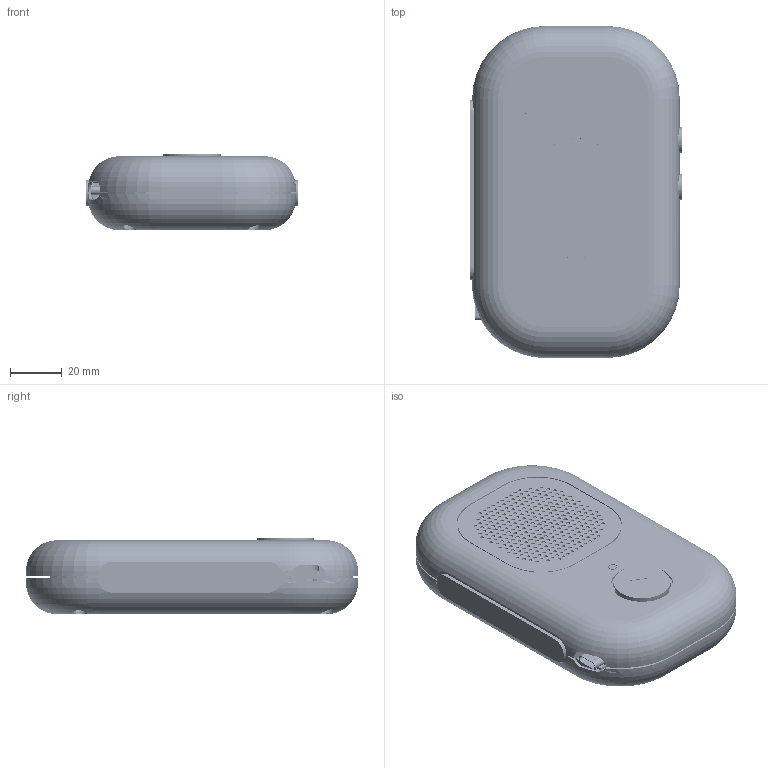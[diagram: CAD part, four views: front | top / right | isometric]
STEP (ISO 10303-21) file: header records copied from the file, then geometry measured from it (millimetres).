
FILE_DESCRIPTION(('Open CASCADE Model'),'2;1');
FILE_NAME('Open CASCADE Shape Model','2026-09-08T11:15:49',('Author'),( 'Open CASCADE'),'Open CASCADE STEP processor 7.7','Open CASCADE 7.7' ,'Unknown');
FILE_SCHEMA(('AUTOMOTIVE_DESIGN { 1 0 10303 214 1 1 1 1 }'));
Length unit declared in the file: millimetre
Products named in the file (76): Walkie_One_23_2_R9_Soapbar; 01_front_stainless; 01_front_stainless_part; 02_rear_stainless; 02_rear_stainless_part; 03_insulating_chassis; 03_insulating_chassis_part; 04_RF_rear_window; 04_RF_rear_window_part; 21_RF_window_bond; 21_RF_window_bond_part; 05_perforated_grille; 05_perforated_grille_part; 06_grille_support; 06_grille_support_part; 07_grille_bond; 07_grille_bond_part; 08_play_guide; 08_play_guide_part; 09_play_cap; 09_play_cap_part; 10_play_actuator; 10_play_actuator_part; 11_status_lightpipe; 11_status_lightpipe_part; 12_PTT_cap; 12_PTT_cap_part; 13_PTT_diaphragm; 13_PTT_diaphragm_part; 12_volume_up_cap; 12_volume_up_cap_part; 13_volume_up_diaphragm; 13_volume_up_diaphragm_part; 12_volume_down_cap; 12_volume_down_cap_part; 13_volume_down_diaphragm; 13_volume_down_diaphragm_part; 14_battery_tray; 14_battery_tray_part; 15_battery_isolation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
Assembly tree (75 placements, depth 4):
  Walkie_One_23_2_R9_Soapbar
    Walkie_One_23_2_R9_Soapbar
      01_front_stainless
        01_front_stainless_part
      02_rear_stainless
        02_rear_stainless_part
      03_insulating_chassis
        03_insulating_chassis_part
      04_RF_rear_window
        04_RF_rear_window_part
      21_RF_window_bond
        21_RF_window_bond_part
      05_perforated_grille
        05_perforated_grille_part
      06_grille_support
        06_grille_support_part
      07_grille_bond
        07_grille_bond_part
      08_play_guide
        08_play_guide_part
      09_play_cap
        09_play_cap_part
      10_play_actuator
        10_play_actuator_part
      11_status_lightpipe
        11_status_lightpipe_part
      12_PTT_cap
        12_PTT_cap_part
      13_PTT_diaphragm
        13_PTT_diaphragm_part
      12_volume_up_cap
        12_volume_up_cap_part
      13_volume_up_diaphragm
        13_volume_up_diaphragm_part
      12_volume_down_cap
        12_volume_down_cap_part
      13_volume_down_diaphragm
        13_volume_down_diaphragm_part
      14_battery_tray
        14_battery_tray_part
      15_battery_isolation
        15_battery_isolation_part
      16_PCB_rail_L
        16_PCB_rail_L_part
      16_PCB_rail_R
        16_PCB_rail_R_part
      19_speaker_cradle
        19_speaker_cradle_part
      20_play_switch_carrier
        20_play_switch_carrier_part
      18_M2x20_rear_1
        18_M2x20_rear_1_part
      18_M2x20_rear_2
        18_M2x20_rear_2_part
      18_M2x20_rear_3
        18_M2x20_rear_3_part
      18_M2x20_rear_4
        18_M2x20_rear_4_part
      REF_USB_connector_board_PROVISIONAL
        REF_USB_connector_board_PROVISIONAL_part
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Bounding box: 81.4 x 128 x 29.4 mm (x, y, z)
Volume: 101879.5 mm3; surface area: 131277.6 mm2
Topology: 342 solids, 1707 shells, 12912 faces, 39363 edges, 28561 vertices
Faces by surface type: plane 8494, cylinder 2746, bspline 1534, torus 80, cone 30, sphere 28
Full cylindrical faces by diameter (mm): 0.3 x61, 0.375 x1, 0.5 x1, 0.6 x4, 0.75 x4, 0.813 x5, 0.9 x8, 1 x16, 1.4 x284, 1.5 x6, 1.8 x31, 1.96 x4, 2 x4, 2.8 x8, 3 x1, 3.6 x1, 4 x1, 4.4 x1, 4.6 x4, 5 x4, 5.6 x4, 6.8 x8, 10 x4, 11.8 x2, 13 x4, 21 x1, 22 x1, 22.5 x1, 23.8 x1, 24 x1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
Entity records: 1001108 total; most frequent: CARTESIAN_POINT 285552, DIRECTION 118905, LINE 81913, VECTOR 81913, ORIENTED_EDGE 69617, PCURVE 69617, DEFINITIONAL_REPRESENTATION 69617, EDGE_CURVE 39319
